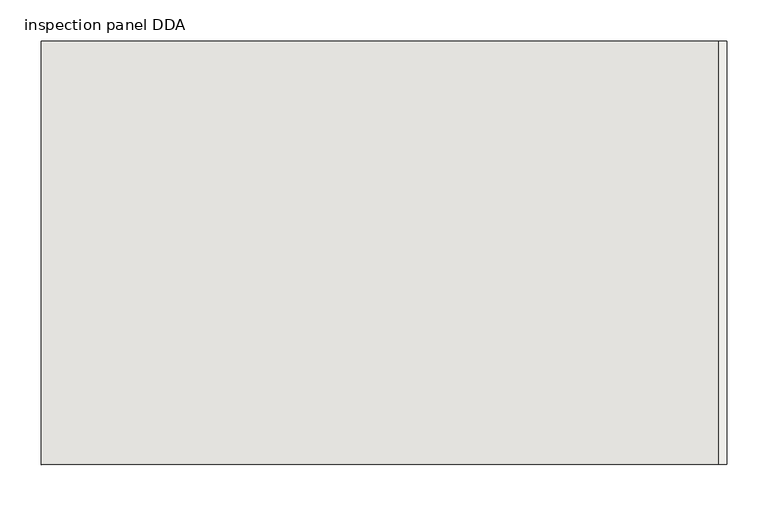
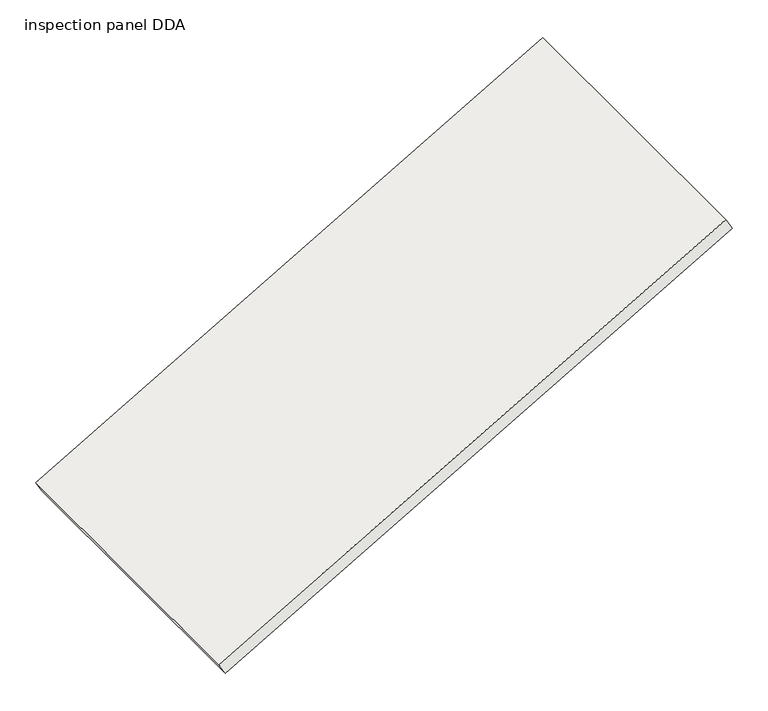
"""IFC4 building model written with IfcOpenShell, lengths in millimetres: covering geometry, DERS_353_AM_AEB_Delta Discovery Air_insp panel-GG_M&G : inspection panel DDA."""

from ifc_helpers import new_model, si_unit, frame, origin, place, context, project, spatial, polyline, outline, extrude, source, transform, mapped, element, save


def inspection_panel_dda_93841c41(model_context):
    return source(origin(), model_context, "Body", "SweptSolid", [
        extrude(outline(polyline([(0.0, 0.0), (0.0, -515.0), (-950.0, -515.0), (-950.0, 0.0), (0.0, 0.0)])), frame((-400.8620668, -257.5, -255.6865335), z_axis=(-0.4999999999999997, 0.0, 0.8660254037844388), x_axis=(-0.8660254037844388, 0.0, -0.4999999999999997)), (0.0, 0.0, 1.0), 21.0),
    ])


if __name__ == "__main__":
    model = new_model("IFC4")
    model_context = context("Model", 3, world=origin())
    ifc_project = project(units=[si_unit("LENGTHUNIT", "METRE", prefix="MILLI")], contexts=[model_context])
    site = spatial("IfcSite", under=ifc_project)
    building = spatial("IfcBuilding", under=site)
    placement = place(None, origin())
    inspection_panel_dda_shape = inspection_panel_dda_93841c41(model_context)
    element("IfcCovering", 1, ObjectType="DERS_353_AM_AEB_Delta Discovery Air_insp panel-GG_M&G : inspection panel DDA", at=placement, inside=building, context=model_context, shape_type="MappedRepresentation", body=[
        mapped(inspection_panel_dda_shape, transform((0.0, 0.0, 0.0), x_axis=(1.0, 0.0, 0.0), y_axis=(0.0, 1.0, 0.0), z_axis=(0.0, 0.0, 1.0))),
    ])
    save(model, "model.ifc")
